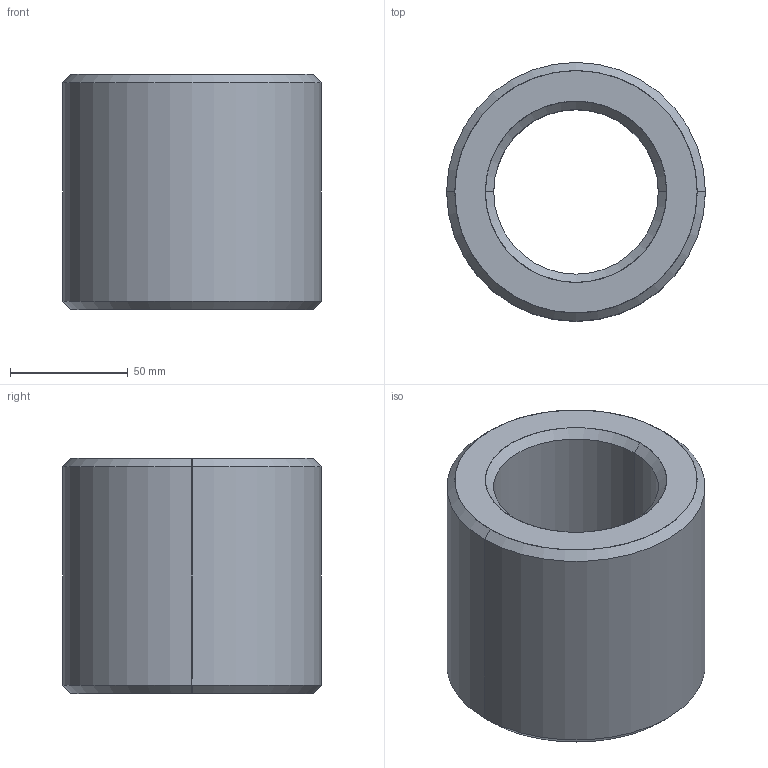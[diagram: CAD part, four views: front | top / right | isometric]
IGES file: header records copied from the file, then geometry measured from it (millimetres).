
Start section: SolidWorks IGES file using analytic representation for surfaces
Global section: file name: C:\Users\ianosborn\Desktop\L1339_v2\L1339_v2_20241024_IGES\L1339.L70-10.igs; native system: SolidWorks 2019; preprocessor: SolidWorks 2019; author: IanOsborn; date: 241024.150734; units: millimetre
Bounding box: 110 x 110 x 100 mm (x, y, z)
Surface area: 65539.6 mm2 (no closed solid volume)
Topology: 0 solids, 0 shells, 14 faces, 304 edges, 304 vertices
Faces by surface type: revolution 12, bspline 2
